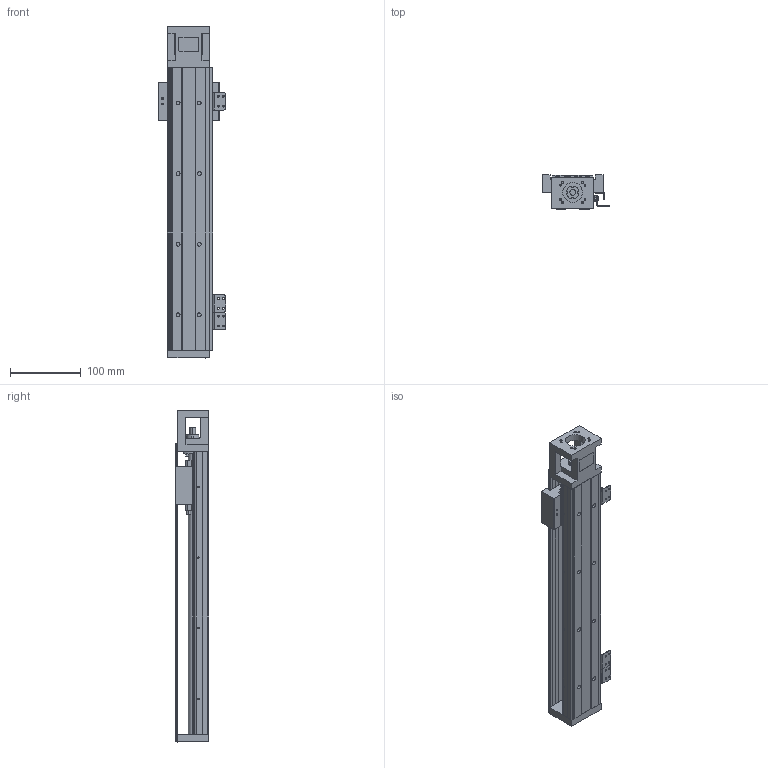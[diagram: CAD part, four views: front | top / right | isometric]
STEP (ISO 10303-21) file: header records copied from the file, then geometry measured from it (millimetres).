
FILE_DESCRIPTION (( 'STEP AP203' ), '1' );
FILE_NAME ('KH60D10C-400A1-F0CS0.STEP', '2023-12-27T03:41:41', ( '' ), ( '' ), 'SwSTEP 2.0', 'SolidWorks 2016', '' );
FILE_SCHEMA (( 'CONFIG_CONTROL_DESIGN' ));
Length unit declared in the file: millimetre
Products named in the file (39): 鞠褒蹟譫M3; 蛌諉啣; KK60-08-01; 囀鞠褒す埴芛蹟隊M3℅5; 綴釱; KH86-08-(SX674); KH86-08-SX674; 囀鞠褒麥芛蹟隊M3x5; KH60D10C-400A1-F0CS0; B-KK60-A1-F0C; 錨璃2; KK60-04-07; 000; KH60-400
Assembly tree (24 placements, depth 3):
  鞠褒蹟譫M3
  囀鞠褒す埴芛蹟隊M3℅5
  KK60-08-01
  囀鞠褒麥芛蹟隊M3x5
  KH60D10C-400A1-F0CS0
    KH60-400
    B-KK60-A1-F0C
      錨璃2
    囀鞠褒麥芛蹟隊M3x5  x4
    綴釱
    蛌諉啣
    KK60-04-07
    KH86-08-SX674  x2
      KK60-08-01
      囀鞠褒す埴芛蹟隊M3℅5
      鞠褒蹟譫M3
    KH86-08-(SX674)
      KK60-08-01
      囀鞠褒す埴芛蹟隊M3℅5  x2
      鞠褒蹟譫M3  x2
    000
Bounding box: 95.4 x 48 x 470 mm (x, y, z)
Volume: 607499.8 mm3; surface area: 224825.4 mm2
Topology: 21 solids, 39 shells, 1730 faces, 4564 edges, 2900 vertices
Faces by surface type: plane 729, cylinder 393, cone 304, bspline 304
Entity records: 47827 total; most frequent: CARTESIAN_POINT 12714, ORIENTED_EDGE 7041, DIRECTION 5635, EDGE_CURVE 3523, VERTEX_POINT 2317, VECTOR 2179, LINE 2179, AXIS2_PLACEMENT_3D 1728
